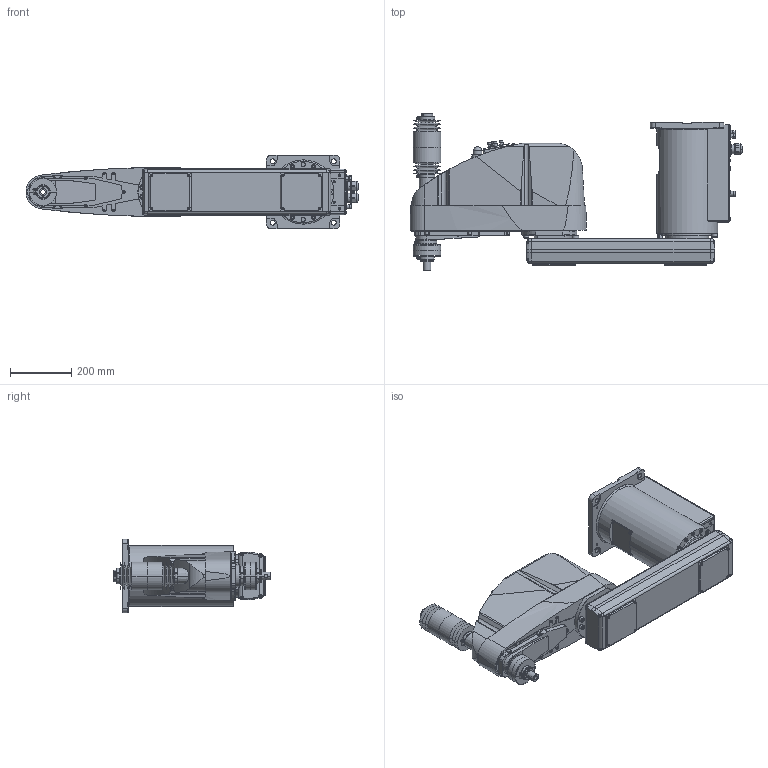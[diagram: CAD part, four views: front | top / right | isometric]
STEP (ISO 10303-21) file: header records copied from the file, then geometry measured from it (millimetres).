
FILE_DESCRIPTION( ( '' ), '1' );
FILE_NAME( '//expscmdclustefs.cadenas.external/client_exchange/iodir/jobs/output/wkb51505341_no0/STEP/G20_851CR_2_14b.stp', '2012-11-22T13:23:50', ( '' ), ( '' ), ' ', ' ', ' ' );
FILE_SCHEMA( ( 'automotive_design' ) );
Length unit declared in the file: millimetre
Products named in the file (8): 1; 2; 3; 4; 5; 6; 7; 8
Bounding box: 1084.5 x 515 x 240 mm (x, y, z)
Volume: 41674578.4 mm3; surface area: 1609335.5 mm2
Topology: 8 solids, 9 shells, 2015 faces, 4893 edges, 3169 vertices
Faces by surface type: plane 1088, cylinder 655, cone 242, torus 29, sphere 1
Entity records: 117503 total; most frequent: CARTESIAN_POINT 12348, DIRECTION 10454, STYLED_ITEM 10077, PRESENTATION_STYLE_ASSIGNMENT 10077, COLOUR_RGB 10077, ORIENTED_EDGE 9770, EDGE_CURVE 4885, CURVE_STYLE 4885
